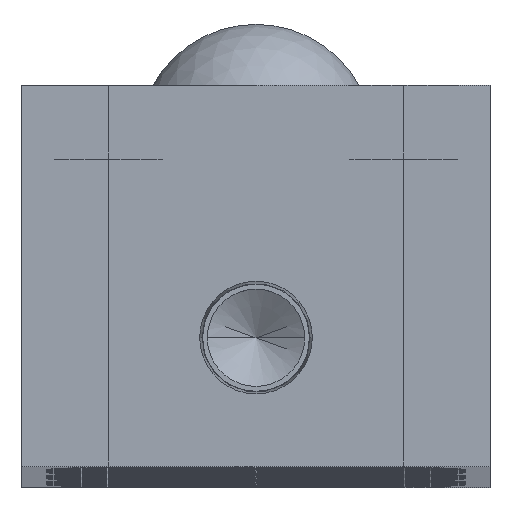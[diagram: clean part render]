
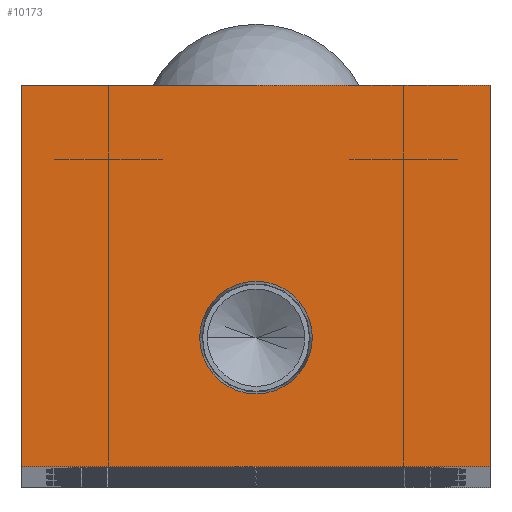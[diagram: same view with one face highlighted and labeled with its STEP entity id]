
A CAD part, top view. The second image highlights one B-rep face of the part: STEP entity #10173.
In plain terms, the highlighted planar face has unit normal (0, 0, 1).
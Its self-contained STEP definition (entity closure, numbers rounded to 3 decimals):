
#434 = DIRECTION ( 'NONE',  ( 0., 1., 0. ) ) ;
#622 = VERTEX_POINT ( 'NONE', #4809 ) ;
#631 = CARTESIAN_POINT ( 'NONE',  ( 0., 10.5, 0. ) ) ;
#820 = CARTESIAN_POINT ( 'NONE',  ( 19., 0., 0. ) ) ;
#1847 = CARTESIAN_POINT ( 'NONE',  ( 19., 31., 0. ) ) ;
#2258 = CARTESIAN_POINT ( 'NONE',  ( -19., 31., 0. ) ) ;
#2355 = DIRECTION ( 'NONE',  ( 1., 0., 0. ) ) ;
#2451 = AXIS2_PLACEMENT_3D ( 'NONE', #5145, #17049, #6852 ) ;
#2871 = EDGE_CURVE ( 'NONE', #15824, #19554, #17797, .T. ) ;
#3028 = CARTESIAN_POINT ( 'NONE',  ( 0., 0., 0. ) ) ;
#3600 = EDGE_CURVE ( 'NONE', #622, #16313, #17126, .T. ) ;
#3746 = DIRECTION ( 'NONE',  ( 0., -1., 0. ) ) ;
#3766 = LINE ( 'NONE', #12412, #21341 ) ;
#3890 = FACE_BOUND ( 'NONE', #11123, .T. ) ;
#4167 = DIRECTION ( 'NONE',  ( -1., 0., 0. ) ) ;
#4415 = EDGE_LOOP ( 'NONE', ( #7911, #21331, #6749, #20403 ) ) ;
#4416 = FACE_OUTER_BOUND ( 'NONE', #4415, .T. ) ;
#4809 = CARTESIAN_POINT ( 'NONE',  ( 4.574, 10.5, 0. ) ) ;
#5110 = AXIS2_PLACEMENT_3D ( 'NONE', #3028, #20105, #9955 ) ;
#5145 = CARTESIAN_POINT ( 'NONE',  ( 0., 10.5, 0. ) ) ;
#5147 = CARTESIAN_POINT ( 'NONE',  ( 19., 0., 0. ) ) ;
#5376 = CARTESIAN_POINT ( 'NONE',  ( -4.574, 10.5, 0. ) ) ;
#6336 = CIRCLE ( 'NONE', #2451, 4.574 ) ;
#6361 = ORIENTED_EDGE ( 'NONE', *, *, #17040, .F. ) ;
#6749 = ORIENTED_EDGE ( 'NONE', *, *, #14433, .T. ) ;
#6812 = LINE ( 'NONE', #820, #14779 ) ;
#6852 = DIRECTION ( 'NONE',  ( 1., 0., 0. ) ) ;
#7911 = ORIENTED_EDGE ( 'NONE', *, *, #17596, .T. ) ;
#9955 = DIRECTION ( 'NONE',  ( -1., 0., 0. ) ) ;
#10173 = ADVANCED_FACE ( 'NONE', ( #3890, #4416 ), #16678, .F. ) ;
#10375 = ORIENTED_EDGE ( 'NONE', *, *, #3600, .F. ) ;
#11123 = EDGE_LOOP ( 'NONE', ( #10375, #6361 ) ) ;
#12412 = CARTESIAN_POINT ( 'NONE',  ( 19., 31., 0. ) ) ;
#12608 = DIRECTION ( 'NONE',  ( 0., 0., 1. ) ) ;
#13156 = EDGE_CURVE ( 'NONE', #21998, #21038, #6812, .T. ) ;
#13293 = CARTESIAN_POINT ( 'NONE',  ( -19., 0., 0. ) ) ;
#13840 = VECTOR ( 'NONE', #4167, 1000. ) ;
#14393 = CARTESIAN_POINT ( 'NONE',  ( -19., 31., 0. ) ) ;
#14433 = EDGE_CURVE ( 'NONE', #21038, #15824, #3766, .T. ) ;
#14779 = VECTOR ( 'NONE', #19528, 1000. ) ;
#15824 = VERTEX_POINT ( 'NONE', #1847 ) ;
#16148 = VECTOR ( 'NONE', #3746, 1000. ) ;
#16313 = VERTEX_POINT ( 'NONE', #5376 ) ;
#16678 = PLANE ( 'NONE',  #5110 ) ;
#17040 = EDGE_CURVE ( 'NONE', #16313, #622, #6336, .T. ) ;
#17049 = DIRECTION ( 'NONE',  ( 0., 0., 1. ) ) ;
#17126 = CIRCLE ( 'NONE', #19943, 4.574 ) ;
#17596 = EDGE_CURVE ( 'NONE', #19554, #21998, #20678, .T. ) ;
#17797 = LINE ( 'NONE', #14393, #13840 ) ;
#19011 = CARTESIAN_POINT ( 'NONE',  ( -19., 0., 0. ) ) ;
#19528 = DIRECTION ( 'NONE',  ( 1., 0., 0. ) ) ;
#19554 = VERTEX_POINT ( 'NONE', #2258 ) ;
#19943 = AXIS2_PLACEMENT_3D ( 'NONE', #631, #12608, #2355 ) ;
#20105 = DIRECTION ( 'NONE',  ( 0., 0., -1. ) ) ;
#20403 = ORIENTED_EDGE ( 'NONE', *, *, #2871, .T. ) ;
#20678 = LINE ( 'NONE', #19011, #16148 ) ;
#21038 = VERTEX_POINT ( 'NONE', #5147 ) ;
#21331 = ORIENTED_EDGE ( 'NONE', *, *, #13156, .T. ) ;
#21341 = VECTOR ( 'NONE', #434, 1000. ) ;
#21998 = VERTEX_POINT ( 'NONE', #13293 ) ;
